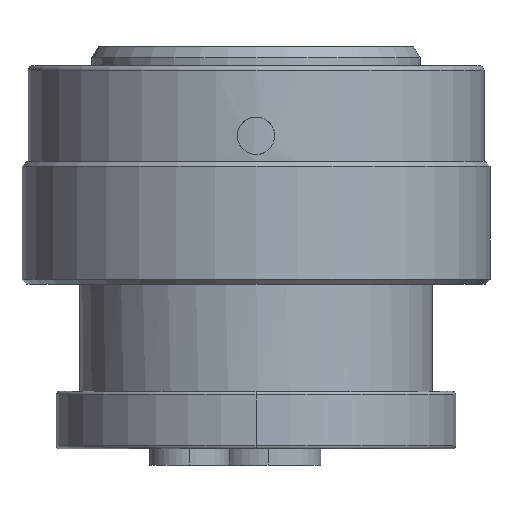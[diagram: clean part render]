
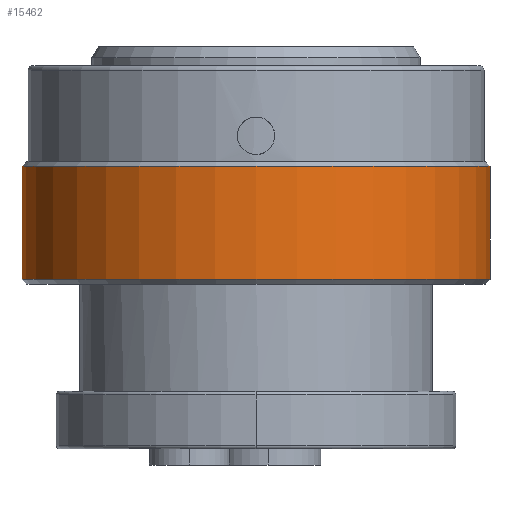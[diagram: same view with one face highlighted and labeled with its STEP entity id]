
A CAD part, left-side view. The second image highlights one B-rep face of the part: STEP entity #15462.
In plain terms, the highlighted cylindrical face has radius 24.765 mm (diameter 49.53 mm), a partial arc.
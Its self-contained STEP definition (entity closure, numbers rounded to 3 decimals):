
#6000=CARTESIAN_POINT('',(0.,0.,-10.668));
#6001=DIRECTION('',(0.,0.,1.));
#6002=DIRECTION('',(0.,1.,0.));
#6003=AXIS2_PLACEMENT_3D('',#6000,#6001,#6002);
#6005=DIRECTION('',(0.,0.,1.));
#6006=VECTOR('',#6005,11.938);
#6007=CARTESIAN_POINT('',(0.,-24.765,-22.606));
#6008=LINE('',#6007,#6006);
#6009=CARTESIAN_POINT('',(0.,0.,-22.606));
#6010=DIRECTION('',(0.,0.,1.));
#6011=DIRECTION('',(0.,1.,0.));
#6012=AXIS2_PLACEMENT_3D('',#6009,#6010,#6011);
#6014=DIRECTION('',(0.,0.,1.));
#6015=VECTOR('',#6014,11.938);
#6016=CARTESIAN_POINT('',(0.,24.765,-22.606));
#6017=LINE('',#6016,#6015);
#6220=CARTESIAN_POINT('',(0.,-24.765,-10.668));
#6221=CARTESIAN_POINT('',(0.,24.765,-10.668));
#6222=VERTEX_POINT('',#6220);
#6223=VERTEX_POINT('',#6221);
#6224=CARTESIAN_POINT('',(0.,-24.765,-22.606));
#6225=CARTESIAN_POINT('',(0.,24.765,-22.606));
#6226=VERTEX_POINT('',#6224);
#6227=VERTEX_POINT('',#6225);
#15450=CARTESIAN_POINT('',(0.,0.,1.156));
#15451=DIRECTION('',(0.,0.,-1.));
#15452=DIRECTION('',(0.,-1.,0.));
#15453=AXIS2_PLACEMENT_3D('',#15450,#15451,#15452);
#15454=CYLINDRICAL_SURFACE('',#15453,24.765);
#15455=ORIENTED_EDGE('',*,*,#15444,.T.);
#15456=ORIENTED_EDGE('',*,*,#9096,.F.);
#15458=ORIENTED_EDGE('',*,*,#15457,.F.);
#15459=ORIENTED_EDGE('',*,*,#9093,.T.);
#15460=EDGE_LOOP('',(#15455,#15456,#15458,#15459));
#15461=FACE_OUTER_BOUND('',#15460,.F.);
#15462=ADVANCED_FACE('',(#15461),#15454,.T.);
#6004=CIRCLE('',#6003,24.765);
#6013=CIRCLE('',#6012,24.765);
#9093=EDGE_CURVE('',#6227,#6223,#6017,.T.);
#9096=EDGE_CURVE('',#6226,#6222,#6008,.T.);
#15444=EDGE_CURVE('',#6223,#6222,#6004,.T.);
#15457=EDGE_CURVE('',#6227,#6226,#6013,.T.);
